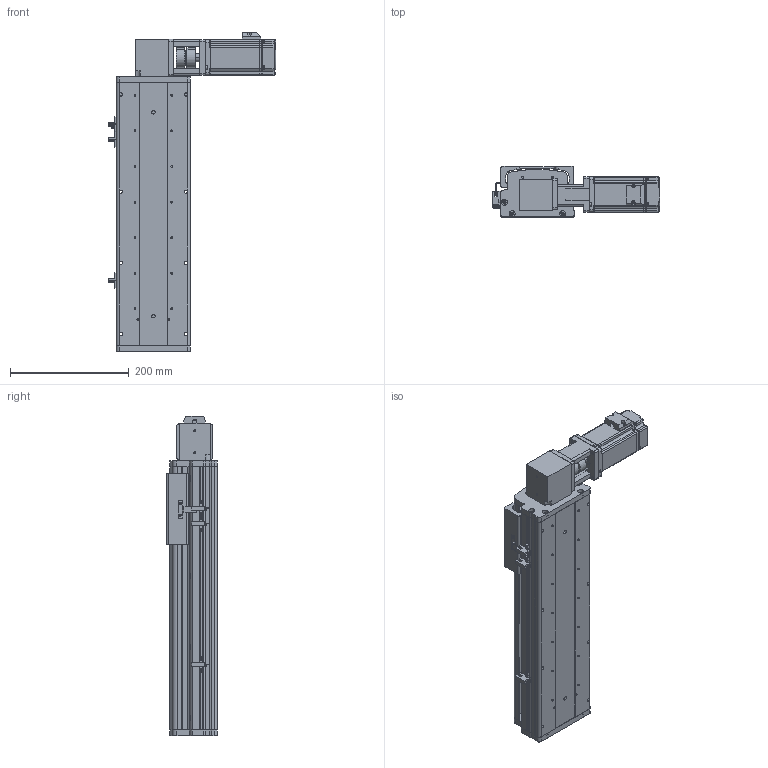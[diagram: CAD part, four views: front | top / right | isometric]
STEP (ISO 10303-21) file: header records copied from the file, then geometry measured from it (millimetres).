
FILE_DESCRIPTION (( 'STEP AP214' ), '1' );
FILE_NAME ('KSD125B-S250-MRT-CM.STEP', '2017-10-21T06:47:17', ( '微软用户' ), ( '微软中国' ), 'SwSTEP 2.0', 'SolidWorks 2014', '' );
FILE_SCHEMA (( 'AUTOMOTIVE_DESIGN' ));
Length unit declared in the file: millimetre
Products named in the file (16): 100宽马达安装板同步带左; KSD125模组250行程同步带-防尘盖; 125模组250行程同步带-底板; MHMD042G1CA_2_03; KSD125模组同步带-防撞垫2; CS-34X32-10X14; 100遵鎮湛假蚾啣1 ; 覜茼え68遵圉猾敕; U倰嫖萇假蚾璃; U倰嫖萇EEㄜSX672; KSD125模组同步带-防撞垫1; 100宽安装板同步带带电机座400W,86; 前端板-125宽模组同步带; 125模组同步带-尾端板1; KSD125模组同步带-滑动座1; KSD125B-S250-MRT-CM
Assembly tree (19 placements, depth 2):
  KSD125B-S250-MRT-CM
    KSD125模组同步带-滑动座1
    125模组同步带-尾端板1
    前端板-125宽模组同步带
    100宽安装板同步带带电机座400W,86
    KSD125模组同步带-防撞垫1
    U倰嫖萇EEㄜSX672  x3
    U倰嫖萇假蚾璃  x3
    覜茼え68遵圉猾敕
    100遵鎮湛假蚾啣1 
    CS-34X32-10X14
    KSD125模组同步带-防撞垫2
    MHMD042G1CA_2_03
    125模组250行程同步带-底板
    KSD125模组250行程同步带-防尘盖
    100宽马达安装板同步带左
Bounding box: 282.7 x 86 x 539 mm (x, y, z)
Volume: 1908241.3 mm3; surface area: 656511.1 mm2
Topology: 18 solids, 21 shells, 1606 faces, 4594 edges, 3028 vertices
Faces by surface type: cylinder 809, plane 694, cone 81, bspline 22
Entity records: 55926 total; most frequent: CARTESIAN_POINT 11372, DIRECTION 8165, ORIENTED_EDGE 7708, EDGE_CURVE 3932, AXIS2_PLACEMENT_3D 3009, VERTEX_POINT 2620, VECTOR 2147, LINE 2147
